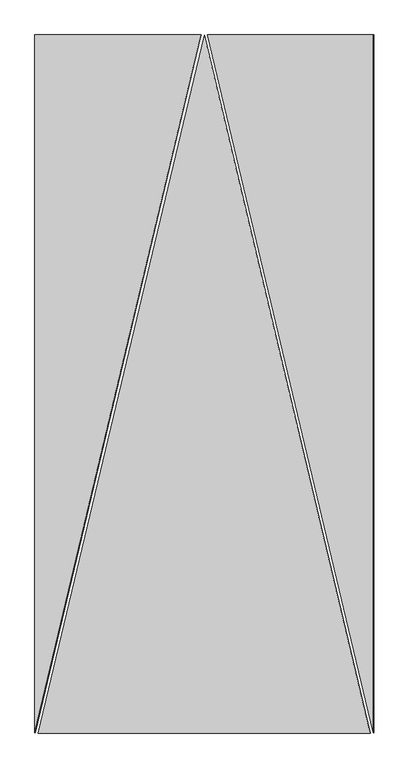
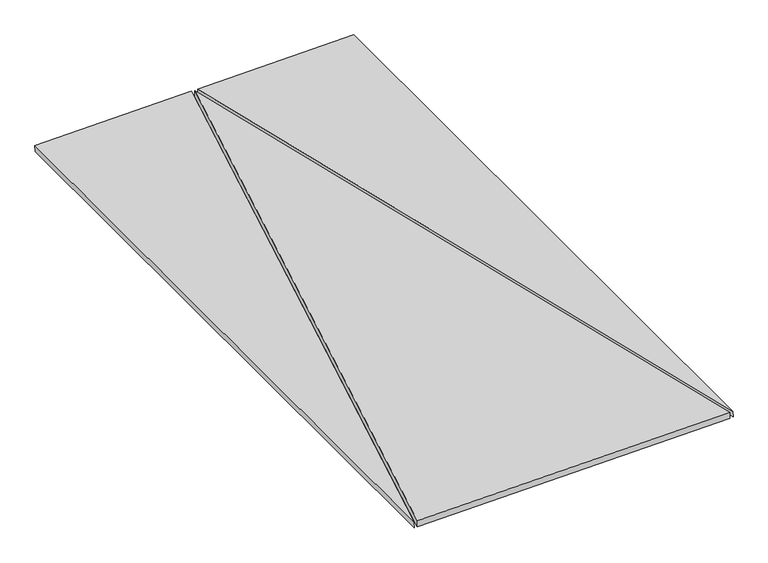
"""IFC4 building model written with IfcOpenShell, lengths in millimetres: proxy geometry, panel sufitowy 6 : panel sufitowy 6."""

from ifc_helpers import new_model, si_unit, frame, origin, place, context, project, spatial, polyline, outline, extrude, source, transform, mapped, element, save


def generic_models_60d21524(model_context):
    return source(origin(), model_context, "Body", "SweptSolid", [
        extrude(outline(polyline([(-900.9098917, 1e-07), (1006.1909889, 962.7191946), (1235.4098448, 0.0), (-900.9098917, 1e-07)])), frame((551.8753506, 1457.4151922, 1194.2927704), z_axis=(-0.017452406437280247, 0.0, 0.9998476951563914), x_axis=(-0.23158525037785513, -0.9728062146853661, -0.0040423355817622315)), (0.0, 0.0, 1.0), 20.0),
        extrude(outline(polyline([(-127.5, 0.0), (-127.5, -2079.0), (-622.5, 0.0), (-127.5, 0.0)])), frame((1392.6369636, 2335.0, 1208.968319), z_axis=(-0.01745240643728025, 0.0, 0.9998476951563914), x_axis=(0.9998476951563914, 0.0, 0.01745240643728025)), (0.0, 0.0, 1.0), 20.0),
        extrude(outline(polyline([(-127.5, 0.0), (-622.5, 0.0), (-127.5, 2079.0), (-127.5, 0.0)])), frame((127.8296293, 2335.0, 1186.8910248), z_axis=(-0.01745240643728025, 0.0, 0.9998476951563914), x_axis=(-0.9998476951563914, 0.0, -0.01745240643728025)), (0.0, 0.0, 1.0), 20.0),
    ])


if __name__ == "__main__":
    model = new_model("IFC4")
    model_context = context("Model", 3, world=origin())
    ifc_project = project(units=[si_unit("LENGTHUNIT", "METRE", prefix="MILLI")], contexts=[model_context])
    site = spatial("IfcSite", under=ifc_project)
    building = spatial("IfcBuilding", under=site)
    placement = place(None, origin())
    generic_models_shape = generic_models_60d21524(model_context)
    element("IfcBuildingElementProxy", 1, Name="panel sufitowy 6 : panel sufitowy 6", ObjectType="panel sufitowy 6 : panel sufitowy 6", at=placement, inside=building, context=model_context, shape_type="MappedRepresentation", body=[
        mapped(generic_models_shape, transform((0.0, 0.0, 0.0), x_axis=(1.0, 0.0, 0.0), y_axis=(0.0, 1.0, 0.0), z_axis=(0.0, 0.0, 1.0))),
    ])
    save(model, "model.ifc")
